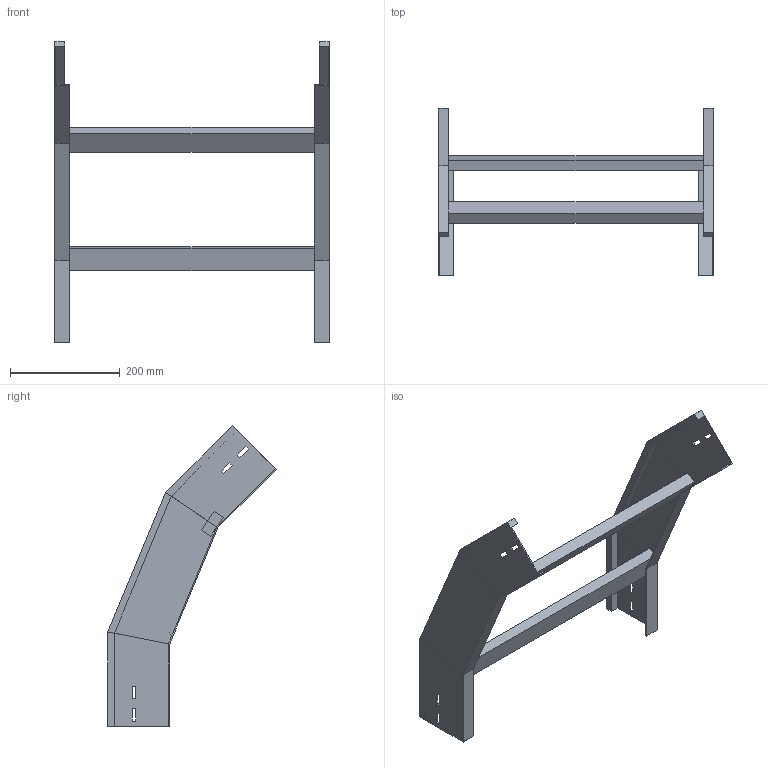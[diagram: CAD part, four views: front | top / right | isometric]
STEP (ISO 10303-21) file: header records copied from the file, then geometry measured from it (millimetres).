
FILE_DESCRIPTION (( 'STEP AP214' ), '1' );
FILE_NAME ('A2_34B3J500.step', '2025-02-21T14:53:20', ( '' ), ( '' ), 'SwSTEP 2.0', 'SolidWorks 2023', '' );
FILE_SCHEMA (( 'AUTOMOTIVE_DESIGN' ));
Length unit declared in the file: millimetre
Products named in the file (3): LONGH.DISCESA_45°_H112.5_R300; TRAVERSINO_500; A2_34B3J500
Assembly tree (5 placements, depth 2):
  A2_34B3J500
    LONGH.DISCESA_45°_H112.5_R300  x2
    TRAVERSINO_500  x3
Bounding box: 500 x 306.58 x 548.11 mm (x, y, z)
Volume: 1750594.3 mm3; surface area: 540900.6 mm2
Topology: 5 solids, 5 shells, 102 faces, 244 edges, 152 vertices
Faces by surface type: plane 102
Entity records: 1480 total; most frequent: CARTESIAN_POINT 244, ORIENTED_EDGE 232, DIRECTION 228, VECTOR 116, EDGE_CURVE 116, LINE 116, VERTEX_POINT 72, AXIS2_PLACEMENT_3D 56
